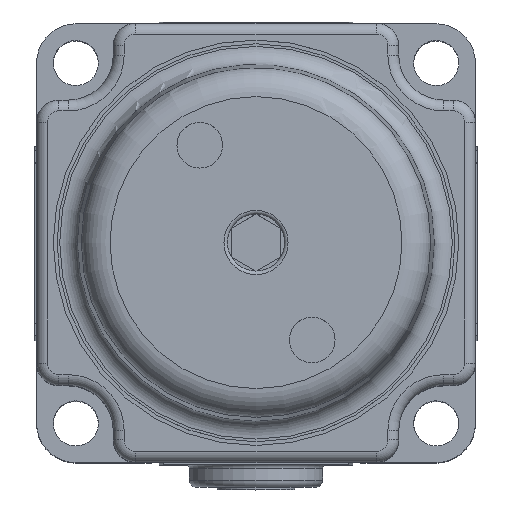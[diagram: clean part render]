
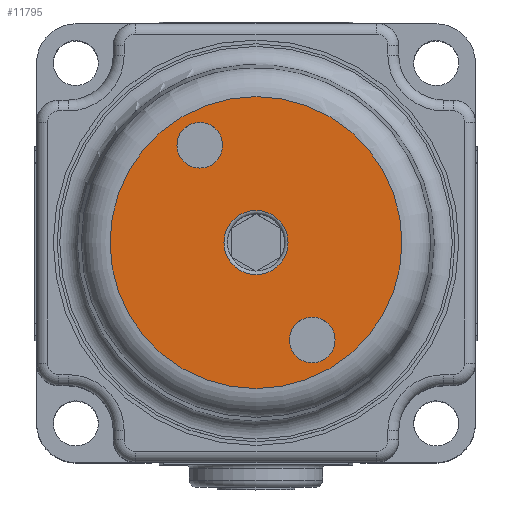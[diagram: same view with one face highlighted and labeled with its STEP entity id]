
A CAD part, top view. The second image highlights one B-rep face of the part: STEP entity #11795.
In plain terms, the highlighted planar face has unit normal (0, 0, 1).
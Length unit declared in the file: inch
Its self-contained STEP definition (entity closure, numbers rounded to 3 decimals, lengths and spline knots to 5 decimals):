
#332=FACE_BOUND('',#1515,.T.);
#333=FACE_BOUND('',#1516,.T.);
#334=FACE_BOUND('',#1517,.T.);
#448=PLANE('',#12547);
#830=FACE_OUTER_BOUND('',#1514,.T.);
#1514=EDGE_LOOP('',(#7777,#7778));
#1515=EDGE_LOOP('',(#7779,#7780));
#1516=EDGE_LOOP('',(#7781,#7782));
#1517=EDGE_LOOP('',(#7783,#7784));
#2234=CIRCLE('',#12534,0.089);
#2239=CIRCLE('',#12539,0.089);
#2246=CIRCLE('',#12548,0.4051);
#2247=CIRCLE('',#12549,0.4051);
#2248=CIRCLE('',#12550,0.0635);
#2249=CIRCLE('',#12551,0.0635);
#2250=CIRCLE('',#12552,0.0635);
#2251=CIRCLE('',#12553,0.0635);
#4615=VERTEX_POINT('',#19568);
#4616=VERTEX_POINT('',#19569);
#4626=VERTEX_POINT('',#19594);
#4627=VERTEX_POINT('',#19595);
#4628=VERTEX_POINT('',#19598);
#4629=VERTEX_POINT('',#19599);
#4630=VERTEX_POINT('',#19602);
#4631=VERTEX_POINT('',#19603);
#5825=EDGE_CURVE('',#4615,#4616,#2234,.T.);
#5830=EDGE_CURVE('',#4616,#4615,#2239,.T.);
#5838=EDGE_CURVE('',#4626,#4627,#2246,.T.);
#5839=EDGE_CURVE('',#4627,#4626,#2247,.T.);
#5840=EDGE_CURVE('',#4628,#4629,#2248,.T.);
#5841=EDGE_CURVE('',#4629,#4628,#2249,.T.);
#5842=EDGE_CURVE('',#4630,#4631,#2250,.T.);
#5843=EDGE_CURVE('',#4631,#4630,#2251,.T.);
#7777=ORIENTED_EDGE('',*,*,#5838,.T.);
#7778=ORIENTED_EDGE('',*,*,#5839,.T.);
#7779=ORIENTED_EDGE('',*,*,#5840,.T.);
#7780=ORIENTED_EDGE('',*,*,#5841,.T.);
#7781=ORIENTED_EDGE('',*,*,#5842,.T.);
#7782=ORIENTED_EDGE('',*,*,#5843,.T.);
#7783=ORIENTED_EDGE('',*,*,#5825,.F.);
#7784=ORIENTED_EDGE('',*,*,#5830,.F.);
#11795=ADVANCED_FACE('',(#830,#332,#333,#334),#448,.T.);
#12534=AXIS2_PLACEMENT_3D('',#19570,#14234,#14235);
#12539=AXIS2_PLACEMENT_3D('',#19578,#14244,#14245);
#12547=AXIS2_PLACEMENT_3D('',#19593,#14261,#14262);
#12548=AXIS2_PLACEMENT_3D('',#19596,#14263,#14264);
#12549=AXIS2_PLACEMENT_3D('',#19597,#14265,#14266);
#12550=AXIS2_PLACEMENT_3D('',#19600,#14267,#14268);
#12551=AXIS2_PLACEMENT_3D('',#19601,#14269,#14270);
#12552=AXIS2_PLACEMENT_3D('',#19604,#14271,#14272);
#12553=AXIS2_PLACEMENT_3D('',#19605,#14273,#14274);
#14234=DIRECTION('center_axis',(0.,0.,
1.));
#14235=DIRECTION('ref_axis',(0.5,-0.866,0.));
#14244=DIRECTION('center_axis',(0.,0.,
1.));
#14245=DIRECTION('ref_axis',(0.5,-0.866,0.));
#14261=DIRECTION('center_axis',(0.,0.,1.));
#14262=DIRECTION('ref_axis',(1.,0.,0.));
#14263=DIRECTION('center_axis',(0.,0.,
1.));
#14264=DIRECTION('ref_axis',(-0.5,0.866,0.));
#14265=DIRECTION('center_axis',(0.,0.,
1.));
#14266=DIRECTION('ref_axis',(-0.5,0.866,0.));
#14267=DIRECTION('center_axis',(0.,0.,
-1.));
#14268=DIRECTION('ref_axis',(0.414,0.91,0.));
#14269=DIRECTION('center_axis',(0.,0.,
-1.));
#14270=DIRECTION('ref_axis',(0.414,0.91,0.));
#14271=DIRECTION('center_axis',(0.,0.,-1.));
#14272=DIRECTION('ref_axis',(0.414,0.91,0.));
#14273=DIRECTION('center_axis',(0.,0.,-1.));
#14274=DIRECTION('ref_axis',(0.414,0.91,0.));
#19568=CARTESIAN_POINT('',(-0.12175,0.26309,0.9997));
#19569=CARTESIAN_POINT('',(-0.10983,0.21859,0.9997));
#19570=CARTESIAN_POINT('Origin',(-0.19883,0.21859,0.9997));
#19578=CARTESIAN_POINT('Origin',(-0.19883,0.21859,0.9997));
#19593=CARTESIAN_POINT('Origin',(-0.55,0.01584,
0.9997));
#19594=CARTESIAN_POINT('',(0.152,0.42114,0.9997));
#19595=CARTESIAN_POINT('',(-0.60393,0.21859,0.9997));
#19596=CARTESIAN_POINT('Origin',(-0.19883,0.21859,0.9997));
#19597=CARTESIAN_POINT('Origin',(-0.19883,0.21859,0.9997));
#19598=CARTESIAN_POINT('',(-0.29983,0.52054,0.9997));
#19599=CARTESIAN_POINT('',(-0.40982,0.45704,0.9997));
#19600=CARTESIAN_POINT('Origin',(-0.35483,0.48879,0.9997));
#19601=CARTESIAN_POINT('Origin',(-0.35483,0.48879,0.9997));
#19602=CARTESIAN_POINT('',(0.01217,-0.01986,0.9997));
#19603=CARTESIAN_POINT('',(-0.09782,-0.08336,0.9997));
#19604=CARTESIAN_POINT('Origin',(-0.04283,-0.05161,
0.9997));
#19605=CARTESIAN_POINT('Origin',(-0.04283,-0.05161,
0.9997));
